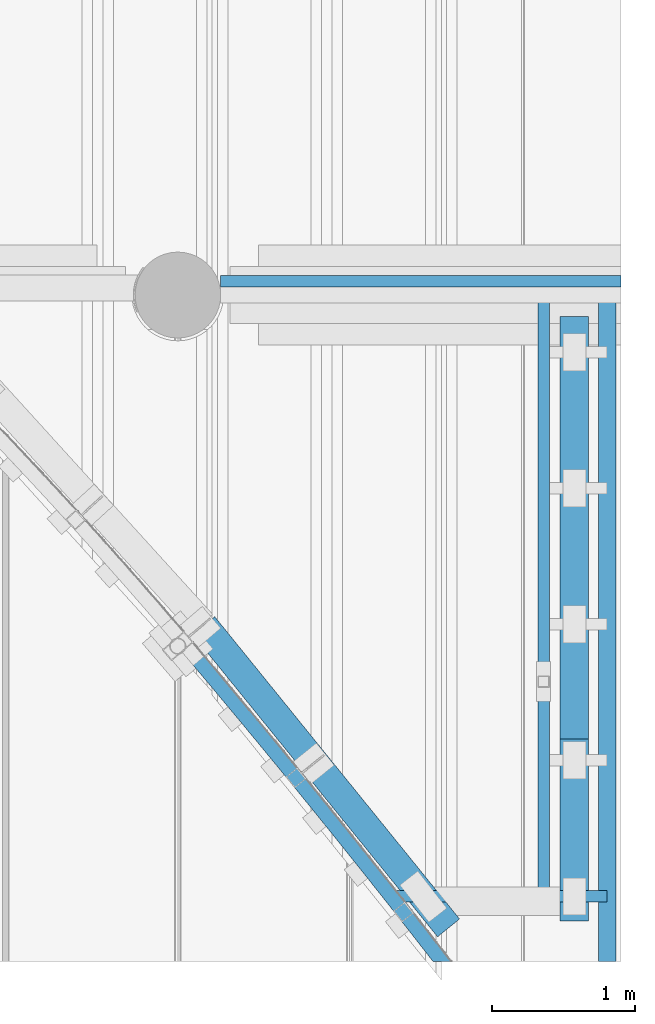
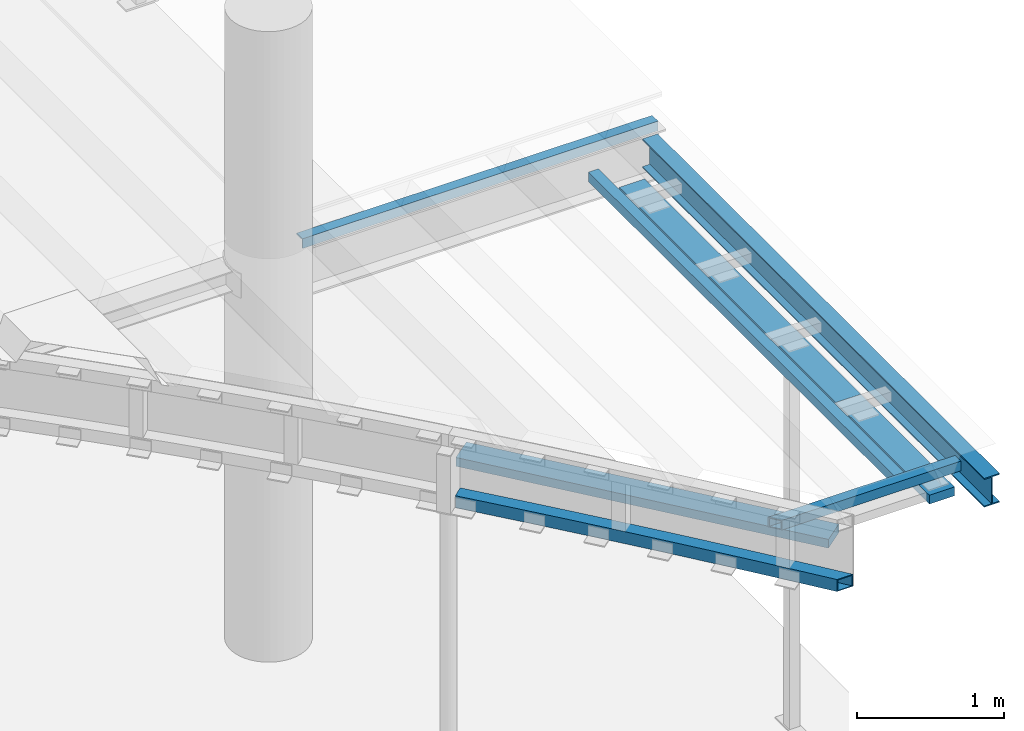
# One storey, part 22 of 98: 8 beams.
"""IFC2X3 building model written with IfcOpenShell, lengths in millimetres."""

from ifc_helpers import new_model, entity, si_unit, converted_unit, derived_unit, direction, frame, origin_with_axes, place, context, subcontext, project, spatial, faceted_brep, material, type_object, element, save


model = new_model("IFC2X3")

# Units and contexts
model_context = context("Model", 3, precision=0.01, world=frame((0.0, 4.29681676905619e-09, 0.0)), true_north=direction((4.01073788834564e-13, 1.0)))
plan_context = context("Plan", 3, precision=0.01, world=frame((0.0, 4.29681676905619e-09, 0.0)), true_north=direction((4.01073788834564e-13, 1.0)))
body_context = subcontext(model_context, "Body", "Model", "MODEL_VIEW")
ifc_project = project(units=[converted_unit("PLANEANGLEUNIT", "DEGREE", entity("IfcPositiveLengthMeasure", 0.0174532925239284), si_unit("PLANEANGLEUNIT", "RADIAN"), dimensions=[0, 0, 0, 0, 0, 0, 0]), si_unit("AREAUNIT", "SQUARE_METRE"), si_unit("LENGTHUNIT", "METRE", prefix="MILLI"), si_unit("MASSUNIT", "GRAM", prefix="KILO"), si_unit("POWERUNIT", "WATT"), si_unit("PRESSUREUNIT", "PASCAL"), si_unit("FORCEUNIT", "NEWTON", prefix="KILO"), si_unit("ELECTRICCURRENTUNIT", "AMPERE"), si_unit("THERMODYNAMICTEMPERATUREUNIT", "DEGREE_CELSIUS"), si_unit("TIMEUNIT", "SECOND"), si_unit("VOLUMEUNIT", "CUBIC_METRE"), derived_unit("LINEARVELOCITYUNIT", [(si_unit("LENGTHUNIT", "METRE"), 1), (si_unit("TIMEUNIT", "SECOND"), -1)]), derived_unit("VOLUMETRICFLOWRATEUNIT", [(si_unit("VOLUMEUNIT", "CUBIC_METRE"), 1), (si_unit("TIMEUNIT", "SECOND"), -1)]), derived_unit("THERMALTRANSMITTANCEUNIT", [(si_unit("POWERUNIT", "WATT"), 1), (si_unit("THERMODYNAMICTEMPERATUREUNIT", "KELVIN"), -1), (si_unit("AREAUNIT", "SQUARE_METRE"), -1)])], contexts=[model_context, plan_context])

# Site, building, storey
site_placement = place(None, frame((0.0, -4.29681676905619e-09, 0.0), z_axis=(0.0, 0.0, 1.0), x_axis=(1.0, 0.0, 0.0)))
site = spatial("IfcSite", under=ifc_project, at=site_placement, Name="Gardermoen", CompositionType="ELEMENT")
building_placement = place(site_placement, frame((0.0, 4.29681676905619e-09, 0.0), z_axis=(0.0, 0.0, 1.0), x_axis=(1.0, 0.0, 0.0)))
building = spatial("IfcBuilding", under=site, at=building_placement, Name="TS", CompositionType="ELEMENT")
storey_placement = place(building_placement, origin_with_axes())
storey = spatial("IfcBuildingStorey", under=building, at=storey_placement, Name="D", CompositionType="ELEMENT", Elevation=0.0)

# Beams
beam_type_1 = type_object("IfcBeamType", Name="L80*10", PredefinedType="NOTDEFINED")
beam_1_placement = place(storey_placement, frame((529299.997991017, 405594.961929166, 207060.001811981), z_axis=(0.0, 0.0, -1.0), x_axis=(1.0, 0.0, 0.0)))
element("IfcBeam", 1, at=beam_1_placement, inside=storey, type_object=beam_type_1, Name="STÅLBJELKE", ObjectType="L80*10", context=body_context, shape_type="Brep", body=[
    faceted_brep([(2795.00200898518, 40.0, -40.0), (2795.00200898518, 40.0, 40.0), (0.0, 40.0, 40.0), (0.0, 40.0, -40.0), (2795.00200898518, 30.0, 40.0), (0.0, 30.0, 40.0), (2795.00200898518, 30.0, -30.0), (0.0, 30.0, -30.0), (2795.00200898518, -40.0, -30.0), (0.0, -40.0, -30.0), (2795.00200898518, -40.0, -40.0), (0.0, -40.0, -40.0)], [[[0, 1, 2, 3]], [[1, 4, 5, 2]], [[4, 6, 7, 5]], [[6, 8, 9, 7]], [[8, 10, 11, 9]], [[10, 0, 3, 11]], [[3, 2, 5, 7, 9, 11]], [[10, 8, 6, 4, 1, 0]]], orient=[[False], [False], [False], [False], [False], [False], [False], [False]]),
])
beam_type_2 = type_object("IfcBeamType", Name="IPE240", PredefinedType="NOTDEFINED")
beam_2_placement = place(storey_placement, frame((531999.996289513, 400380.006556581, 206919.999375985), z_axis=(0.0, 0.0, -1.0), x_axis=(0.0, 1.0, 0.0)))
element("IfcBeam", 2, at=beam_2_placement, inside=storey, type_object=beam_type_2, Name="STÅLBJELKE", ObjectType="IPE240", context=body_context, shape_type="Brep", body=[
    faceted_brep([(465.670102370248, 60.0000000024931, -110.199999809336), (465.670102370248, 60.0000000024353, -120.000000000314), (5119.99189277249, 60.0000000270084, -120.000000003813), (5119.99189277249, 60.0000000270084, -110.199999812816), (465.670102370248, 3.09999990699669, -110.199999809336), (5119.99189277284, 3.09999993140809, -110.199999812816), (465.670102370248, 3.09999990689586, 110.199999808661), (5119.99189277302, 3.09999993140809, 110.199999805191), (465.670102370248, 60.0000000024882, 110.199999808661), (5119.99189277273, 60.0000000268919, 110.199999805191), (465.670102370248, 60.0000000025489, 119.999999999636), (5119.99189277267, 60.0000000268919, 119.999999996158), (465.670102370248, -59.9999999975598, 119.999999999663), (5119.99189277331, -59.9999999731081, 119.999999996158), (465.670102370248, -59.9999999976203, 110.199999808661), (5119.99189277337, -59.9999999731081, 110.199999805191), (465.670102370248, -3.09999990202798, 110.199999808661), (5119.99189277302, -3.09999987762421, 110.199999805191), (465.670102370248, -3.09999990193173, -110.199999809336), (5119.99189277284, -3.09999987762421, -110.199999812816), (465.670102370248, -59.9999999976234, -110.199999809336), (5119.99189277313, -59.9999999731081, -110.199999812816), (465.670102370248, -59.9999999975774, -120.000000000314), (5119.99189277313, -59.9999999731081, -120.000000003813)], [[[0, 1, 2, 3]], [[4, 0, 3, 5]], [[6, 4, 5, 7]], [[8, 6, 7, 9]], [[10, 8, 9, 11]], [[12, 10, 11, 13]], [[14, 12, 13, 15]], [[16, 14, 15, 17]], [[18, 16, 17, 19]], [[20, 18, 19, 21]], [[22, 20, 21, 23]], [[1, 22, 23, 2]], [[3, 2, 23, 21, 19, 17, 15, 13, 11, 9, 7, 5]], [[4, 6, 8, 10, 12, 14, 16, 18, 20, 22, 1, 0]]], orient=[[False], [False], [False], [False], [False], [False], [False], [False], [False], [False], [False], [False], [False], [False]]),
])
ifc_material_1 = material(Name="STEEL/S355")
beam_type_3 = type_object("IfcBeamType", Name="RHS80*6", PredefinedType="NOTDEFINED")
beam_3_placement = place(storey_placement, frame((530605.0, 401300.0, 206873.0), z_axis=(0.0, 1.0, 0.0), x_axis=(1.0, 0.0, 0.0)))
element("IfcBeam", 3, at=beam_3_placement, inside=storey, type_object=beam_type_3, material=ifc_material_1, Name="STÅLBJELKE", ObjectType="RHS80*6", context=body_context, shape_type="Brep", body=[
    faceted_brep([(-19.494498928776, 34.0, -34.0), (-19.494498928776, -34.0, -34.0), (1391.89946082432, -34.0, -34.0), (1391.89946082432, 34.0, -34.0), (-73.1028731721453, -34.0, 34.0), (1391.89946082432, -34.0, 34.0), (-73.1028731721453, 34.0, 34.0), (1391.89946082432, 34.0, 34.0), (-14.7643482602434, 40.0, -40.0), (-77.8330238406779, 40.0, 40.0), (1391.89946082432, 40.0, 40.0), (1391.89946082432, 40.0, -40.0), (-77.8330238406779, -40.0, 40.0), (1391.89946082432, -40.0, 40.0), (-14.7643482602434, -40.0, -40.0), (1391.89946082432, -40.0, -40.0)], [[[0, 1, 2, 3]], [[1, 4, 5, 2]], [[4, 6, 7, 5]], [[6, 0, 3, 7]], [[8, 9, 10, 11]], [[9, 12, 13, 10]], [[12, 14, 15, 13]], [[14, 8, 11, 15]], [[13, 15, 11, 10], [5, 7, 3, 2]], [[14, 12, 9, 8], [6, 4, 1, 0]]]),
])
beam_4_placement = place(storey_placement, frame((531555.0, 405500.0, 206873.0), z_axis=(1.0, 0.0, 0.0), x_axis=(0.0, -1.0, 0.0)))
element("IfcBeam", 4, at=beam_4_placement, inside=storey, type_object=beam_type_3, material=ifc_material_1, Name="STÅLBJELKE", ObjectType="RHS80*6", context=body_context, shape_type="Brep", body=[
    faceted_brep([(0.0, 34.0, -34.0), (0.0, -34.0, -34.0), (4160.0, -34.0, -34.0), (4160.0, 34.0, -34.0), (0.0, -34.0, 34.0), (4160.0, -34.0, 34.0), (0.0, 34.0, 34.0), (4160.0, 34.0, 34.0), (0.0, 40.0, -40.0), (0.0, 40.0, 40.0), (4160.0, 40.0, 40.0), (4160.0, 40.0, -40.0), (0.0, -40.0, 40.0), (4160.0, -40.0, 40.0), (0.0, -40.0, -40.0), (4160.0, -40.0, -40.0)], [[[0, 1, 2, 3]], [[1, 4, 5, 2]], [[4, 6, 7, 5]], [[6, 0, 3, 7]], [[8, 9, 10, 11]], [[9, 12, 13, 10]], [[12, 14, 15, 13]], [[14, 8, 11, 15]], [[13, 15, 11, 10], [5, 7, 3, 2]], [[14, 12, 9, 8], [6, 4, 1, 0]]]),
])
ifc_material_2 = material(Name="TIMBER/GL36c")
beam_type_4 = type_object("IfcBeamType", Name="PL73*198", PredefinedType="NOTDEFINED")
beam_5_placement = place(storey_placement, frame((531769.996252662, 401127.788777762, 206786.5), z_axis=(-0.999999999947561, 1.02410000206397e-05, 0.0), x_axis=(1.02410000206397e-05, 0.999999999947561, 0.0)))
element("IfcBeam", 5, at=beam_5_placement, inside=storey, type_object=beam_type_4, material=ifc_material_2, Name="TREBJELKE", ObjectType="PL73*198", context=body_context, shape_type="Brep", body=[
    faceted_brep([(2.3283064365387e-10, 36.5, -99.0000000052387), (-2.3283064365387e-10, 36.5, 99.0000000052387), (1272.21122241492, 36.5, 98.9999999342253), (1272.21122241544, 36.5, -99.000000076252), (-2.3283064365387e-10, -36.5, 99.0000000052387), (1272.21122241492, -36.5, 98.9999999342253), (2.3283064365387e-10, -36.5, -99.0000000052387), (1272.21122241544, -36.5, -99.000000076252)], [[[0, 1, 2, 3]], [[1, 4, 5, 2]], [[4, 6, 7, 5]], [[6, 0, 3, 7]], [[5, 7, 3, 2]], [[6, 4, 1, 0]]]),
])
beam_6_placement = place(storey_placement, frame((531769.996252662, 402399.999780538, 206786.5), z_axis=(-0.999999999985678, 5.35199998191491e-06, 0.0), x_axis=(5.35199998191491e-06, 0.999999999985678, 0.0)))
element("IfcBeam", 6, at=beam_6_placement, inside=storey, type_object=beam_type_4, material=ifc_material_2, Name="TREBJELKE", ObjectType="PL73*198", context=body_context, shape_type="Brep", body=[
    faceted_brep([(2.3283064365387e-10, 36.5, -99.0000000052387), (-2.3283064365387e-10, 36.5, 99.0000000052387), (2950.00021955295, 36.5, 98.9999999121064), (2950.00021955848, 36.5, -99.0000000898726), (-2.3283064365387e-10, -36.5, 99.0000000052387), (2950.00021955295, -36.5, 98.9999999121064), (2.3283064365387e-10, -36.5, -99.0000000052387), (2950.00021955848, -36.5, -99.0000000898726)], [[[0, 1, 2, 3]], [[1, 4, 5, 2]], [[4, 6, 7, 5]], [[6, 0, 3, 7]], [[5, 7, 3, 2]], [[6, 4, 1, 0]]]),
])
beam_7_placement = place(storey_placement, frame((530891.371800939, 401079.8921383, 206786.5), z_axis=(-0.777020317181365, -0.629475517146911, 0.0), x_axis=(-0.629475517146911, 0.777020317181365, 0.0)))
element("IfcBeam", 7, at=beam_7_placement, inside=storey, type_object=beam_type_4, material=ifc_material_2, Name="TREBJELKE", ObjectType="PL73*198", context=body_context, shape_type="Brep", body=[
    faceted_brep([(2.3283064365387e-10, 36.5, -99.0000000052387), (-2.3283064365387e-10, 36.5, 99.0000000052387), (2716.5928605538, 36.5, 99.0000001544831), (2716.5928605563, 36.5, -98.9999998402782), (-2.3283064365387e-10, -36.5, 99.0000000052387), (2716.5928605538, -36.5, 99.0000001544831), (2.3283064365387e-10, -36.5, -99.0000000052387), (2716.5928605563, -36.5, -98.9999998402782)], [[[0, 1, 2, 3]], [[1, 4, 5, 2]], [[4, 6, 7, 5]], [[6, 0, 3, 7]], [[5, 7, 3, 2]], [[6, 4, 1, 0]]]),
])
beam_type_5 = type_object("IfcBeamType", Name="RHS100*6.3", PredefinedType="NOTDEFINED")
beam_8_placement = place(storey_placement, frame((529157.519512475, 402932.753920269, 206555.0), z_axis=(0.0, 0.0, 1.0), x_axis=(0.616783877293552, -0.787132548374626, 0.0)))
element("IfcBeam", 8, at=beam_8_placement, inside=storey, type_object=beam_type_5, Name="STÅLBJELKE", ObjectType="RHS100*6.3", context=body_context, shape_type="Brep", body=[
    faceted_brep([(1.78141594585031, -49.9682554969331, -50.0), (-1.78141594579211, 49.9682554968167, -50.0), (-96.4603273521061, 46.525295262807, -50.0), (-92.7550461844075, -53.4060356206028, -50.0), (-141.9494070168, 44.8061724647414, -50.0), (-137.529235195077, -55.0981412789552, -50.0), (96.3226823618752, -46.6652343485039, -50.0), (92.9023069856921, 53.2762536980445, -50.0), (190.868560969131, -43.4969788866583, -50.0), (187.590649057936, 56.4492831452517, -50.0), (285.418859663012, -40.4634955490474, -50.0), (282.283417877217, 59.4873373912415, -50.0), (379.97338633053, -37.5647904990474, -50.0), (376.980421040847, 62.3904102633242, -50.0), (474.531948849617, -34.8008696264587, -50.0), (471.681466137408, 65.1584958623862, -50.0), (569.094355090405, -32.1717385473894, -50.0), (566.386360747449, 67.7915885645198, -50.0), (663.660412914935, -29.6774026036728, -50.0), (661.094912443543, 70.2896830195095, -50.0), (758.229930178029, -27.3178668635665, -50.0), (755.806928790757, 72.6527741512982, -50.0), (852.802714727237, -25.0931361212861, -50.0), (850.522217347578, 74.8808571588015, -50.0), (947.37857440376, -23.0032148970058, -50.0), (945.24058566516, 76.9739275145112, -50.0), (1041.9573170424, -21.0481074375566, -50.0), (1039.96184128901, 78.9319809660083, -50.0), (1136.53875047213, -19.2278177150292, -50.0), (1134.68579175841, 80.75501353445, -50.0), (1231.12268251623, -17.5423494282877, -50.0), (1229.41224460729, 82.4430215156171, -50.0), (1325.70892099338, -15.9917060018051, -50.0), (1324.14100736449, 83.9960014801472, -50.0), (1420.29727371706, -14.5758905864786, -50.0), (1418.87188755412, 85.4139502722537, -50.0), (1514.887548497, -13.2949060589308, -50.0), (1513.60469269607, 86.6968650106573, -50.0), (1609.47955313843, -12.1487550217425, -50.0), (1608.3392303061, 87.8447430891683, -50.0), (1704.07309544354, -11.1374398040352, -50.0), (1703.07530789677, 88.8575821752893, -50.0), (1798.66798321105, -10.2609624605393, -50.0), (1797.81273297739, 89.7353802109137, -50.0), (1893.26402423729, -9.51932477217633, -50.0), (1892.55131305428, 90.4781354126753, -50.0), (1987.86102631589, -8.91252824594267, -50.0), (1987.29085563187, 91.0858462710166, -50.0), (2082.45879723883, -8.44057411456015, -50.0), (2082.03116821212, 91.5585115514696, -50.0), (2177.05714479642, -8.10346333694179, -50.0), (2176.77205829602, 91.8961302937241, -50.0), (2271.65587677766, -7.90119659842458, -50.0), (2271.51333338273, 92.098701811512, -50.0), (2366.25480097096, -7.83377430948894, -50.0), (2366.25480097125, 92.1662256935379, -50.0), (2460.85372516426, -7.90119660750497, -50.0), (2460.99626855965, 92.0987018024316, -50.0), (2555.4524571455, -8.10346335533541, -50.0), (2555.73754364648, 91.8961302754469, -50.0), (2644.89454651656, -8.42219929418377, -50.0), (2650.07917790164, -1.80563186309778, -50.0), (2650.47843373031, 91.5585115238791, -50.0), (2722.95442276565, 91.1969243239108, -50.0), (2722.95442276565, 91.1969243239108, 50.0), (2650.47843373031, 91.5585115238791, 50.0), (2555.73754364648, 91.8961302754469, 50.0), (2460.99626855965, 92.0987018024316, 50.0), (2366.25480097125, 92.1662256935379, 50.0), (2271.51333338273, 92.098701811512, 50.0), (2176.77205829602, 91.8961302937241, 50.0), (2082.03116821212, 91.5585115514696, 50.0), (1987.29085563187, 91.0858462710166, 50.0), (1892.55131305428, 90.4781354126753, 50.0), (1797.81273297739, 89.7353802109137, 50.0), (1703.07530789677, 88.8575821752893, 50.0), (1608.3392303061, 87.8447430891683, 50.0), (1513.60469269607, 86.6968650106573, 50.0), (1418.87188755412, 85.4139502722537, 50.0), (1324.14100736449, 83.9960014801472, 50.0), (1229.41224460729, 82.4430215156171, 50.0), (1134.68579175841, 80.75501353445, 50.0), (1039.96184128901, 78.9319809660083, 50.0), (945.24058566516, 76.9739275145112, 50.0), (850.522217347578, 74.8808571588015, 50.0), (755.806928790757, 72.6527741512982, 50.0), (661.094912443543, 70.2896830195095, 50.0), (566.386360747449, 67.7915885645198, 50.0), (471.681466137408, 65.1584958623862, 50.0), (376.980421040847, 62.3904102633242, 50.0), (282.283417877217, 59.4873373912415, 50.0), (187.590649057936, 56.4492831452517, 50.0), (92.9023069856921, 53.2762536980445, 50.0), (-1.78141594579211, 49.9682554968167, 50.0), (-96.4603273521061, 46.525295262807, 50.0), (-141.9494070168, 44.8061724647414, 50.0), (1.78141594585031, -49.9682554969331, 50.0), (-92.7550461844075, -53.4060356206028, 50.0), (-137.529235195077, -55.0981412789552, 50.0), (96.3226823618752, -46.6652343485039, 50.0), (190.868560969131, -43.4969788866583, 50.0), (285.418859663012, -40.4634955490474, 50.0), (379.97338633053, -37.5647904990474, 50.0), (474.531948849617, -34.8008696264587, 50.0), (569.094355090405, -32.1717385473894, 50.0), (663.660412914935, -29.6774026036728, 50.0), (758.229930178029, -27.3178668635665, 50.0), (852.802714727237, -25.0931361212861, 50.0), (947.37857440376, -23.0032148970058, 50.0), (1041.9573170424, -21.0481074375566, 50.0), (1136.53875047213, -19.2278177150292, 50.0), (1231.12268251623, -17.5423494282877, 50.0), (1325.70892099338, -15.9917060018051, 50.0), (1420.29727371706, -14.5758905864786, 50.0), (1514.887548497, -13.2949060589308, 50.0), (1609.47955313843, -12.1487550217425, 50.0), (1704.07309544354, -11.1374398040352, 50.0), (1798.66798321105, -10.2609624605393, 50.0), (1893.26402423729, -9.51932477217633, 50.0), (1987.86102631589, -8.91252824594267, 50.0), (2082.45879723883, -8.44057411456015, 50.0), (2177.05714479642, -8.10346333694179, 50.0), (2271.65587677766, -7.90119659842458, 50.0), (2366.25480097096, -7.83377430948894, 50.0), (2460.85372516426, -7.90119660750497, 50.0), (2555.4524571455, -8.10346335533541, 50.0), (2650.07917790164, -1.80563186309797, 50.0), (2644.89454651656, -8.42219929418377, 50.0), (-137.807706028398, -48.804169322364, -43.6999998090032), (-141.670936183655, 38.5122005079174, -43.6999998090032), (-96.226894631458, 40.2296212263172, -43.6999998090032), (-92.9884789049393, -47.1103615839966, -43.6999998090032), (-1.55695752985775, 43.6722551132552, -43.6999998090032), (1.55695752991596, -43.6722551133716, -43.6999998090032), (93.1177906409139, 46.979939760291, -43.6999998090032), (96.1071987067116, -40.368920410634, -43.6999998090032), (187.797157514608, 50.1526684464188, -43.6999998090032), (190.66205251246, -37.2003641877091, -43.6999998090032), (282.480950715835, 53.1904347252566, -43.6999998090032), (285.22132682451, -34.1665928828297, -43.6999998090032), (377.168977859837, 56.0932324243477, -43.6999998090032), (379.784829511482, -31.2676126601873, -43.6999998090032), (471.861046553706, 58.8610556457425, -43.6999998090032), (474.352368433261, -28.503429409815, -43.6999998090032), (566.556964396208, 61.4938987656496, -43.6999998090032), (568.923751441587, -25.8740487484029, -43.6999998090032), (661.256538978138, 63.9917564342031, -43.6999998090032), (663.49878638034, -23.3794760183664, -43.6999998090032), (755.959577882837, 66.3546235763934, -43.6999998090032), (758.077281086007, -21.0197162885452, -43.6999998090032), (850.665888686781, 68.5824953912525, -43.6999998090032), (852.659043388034, -18.7947743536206, -43.6999998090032), (945.375278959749, 70.6753673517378, -43.6999998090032), (947.243881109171, -16.7046547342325, -43.6999998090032), (1040.08755626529, 72.633235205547, -43.6999998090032), (1041.83160206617, -14.7493616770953, -43.6999998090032), (1134.80252816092, 74.4560949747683, -43.6999998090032), (1136.42201406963, -12.9288991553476, -43.6999998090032), (1229.52000219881, 76.1439429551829, -43.6999998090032), (1231.0149249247, -11.2432708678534, -43.6999998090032), (1324.23978592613, 77.6967757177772, -43.6999998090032), (1325.61014243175, -9.69248023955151, -43.6999998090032), (1418.96168688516, 79.1145901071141, -43.6999998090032), (1420.20747438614, -8.27653042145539, -43.6999998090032), (1513.68551261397, 80.3973832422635, -43.6999998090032), (1514.80672857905, -6.9954242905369, -43.6999998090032), (1608.41107064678, 81.5451525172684, -43.6999998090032), (1609.40771279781, -5.84916444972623, -43.6999998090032), (1703.13816851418, 82.5578955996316, -43.6999998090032), (1704.01023482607, -4.83775322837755, -43.6999998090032), (1797.86661374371, 83.4356104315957, -43.6999998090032), (1798.61410244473, -3.96119268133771, -43.6999998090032), (1892.5962138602, 84.1782952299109, -43.6999998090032), (1893.21912343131, -3.21948458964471, -43.6999998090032), (1987.32677638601, 84.7859484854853, -43.6999998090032), (1987.82510556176, -2.61263046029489, -43.6999998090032), (2082.05810884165, 85.258568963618, -43.6999998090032), (2082.43185660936, -2.14063152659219, -43.6999998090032), (2176.79001874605, 85.5961557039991, -43.6999998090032), (2177.03918434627, -1.80348874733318, -43.6999998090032), (2271.52231361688, 85.7987080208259, -43.6999998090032), (2271.64689654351, -1.60120280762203, -43.6999998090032), (2366.25480097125, 85.8662255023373, -43.6999998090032), (2366.25480097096, -1.53377411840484, -43.6999998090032), (2460.98728832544, 85.7987080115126, -43.6999998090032), (2460.86270539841, -1.60120281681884, -43.6999998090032), (2555.71958319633, 85.5961556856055, -43.6999998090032), (2555.47041759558, -1.8034887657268, -43.6999998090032), (2650.07917790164, -1.80563186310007, -43.6999998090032), (2649.81740472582, -2.13970380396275, -43.6999998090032), (2650.45149310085, 85.2585689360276, -43.6999998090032), (2718.03701184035, 84.9213805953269, -43.6999998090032), (-141.670936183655, 38.5122005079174, 43.6999998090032), (-96.226894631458, 40.2296212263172, 43.6999998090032), (-1.55695752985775, 43.6722551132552, 43.6999998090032), (93.1177906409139, 46.979939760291, 43.6999998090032), (187.797157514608, 50.1526684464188, 43.6999998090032), (282.480950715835, 53.1904347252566, 43.6999998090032), (377.168977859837, 56.0932324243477, 43.6999998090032), (471.861046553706, 58.8610556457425, 43.6999998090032), (566.556964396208, 61.4938987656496, 43.6999998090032), (661.256538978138, 63.9917564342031, 43.6999998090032), (755.959577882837, 66.3546235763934, 43.6999998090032), (850.665888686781, 68.5824953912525, 43.6999998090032), (945.375278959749, 70.6753673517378, 43.6999998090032), (1040.08755626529, 72.633235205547, 43.6999998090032), (1134.80252816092, 74.4560949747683, 43.6999998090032), (1229.52000219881, 76.1439429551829, 43.6999998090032), (1324.23978592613, 77.6967757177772, 43.6999998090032), (1418.96168688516, 79.1145901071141, 43.6999998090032), (1513.68551261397, 80.3973832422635, 43.6999998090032), (1608.41107064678, 81.5451525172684, 43.6999998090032), (1703.13816851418, 82.5578955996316, 43.6999998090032), (1797.86661374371, 83.4356104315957, 43.6999998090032), (1892.5962138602, 84.1782952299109, 43.6999998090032), (1987.32677638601, 84.7859484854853, 43.6999998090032), (2082.05810884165, 85.258568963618, 43.6999998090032), (2176.79001874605, 85.5961557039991, 43.6999998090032), (2271.52231361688, 85.7987080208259, 43.6999998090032), (2366.25480097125, 85.8662255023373, 43.6999998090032), (2460.98728832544, 85.7987080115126, 43.6999998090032), (2555.71958319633, 85.5961556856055, 43.6999998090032), (2650.45149310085, 85.2585689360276, 43.6999998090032), (2718.03701184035, 84.9213805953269, 43.6999998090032), (-137.807706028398, -48.804169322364, 43.6999998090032), (-92.9884789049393, -47.1103615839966, 43.6999998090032), (1.55695752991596, -43.6722551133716, 43.6999998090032), (96.1071987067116, -40.368920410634, 43.6999998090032), (190.66205251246, -37.2003641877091, 43.6999998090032), (285.22132682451, -34.1665928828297, 43.6999998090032), (379.784829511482, -31.2676126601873, 43.6999998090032), (474.352368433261, -28.503429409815, 43.6999998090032), (568.923751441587, -25.8740487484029, 43.6999998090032), (663.49878638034, -23.3794760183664, 43.6999998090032), (758.077281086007, -21.0197162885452, 43.6999998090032), (852.659043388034, -18.7947743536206, 43.6999998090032), (947.243881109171, -16.7046547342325, 43.6999998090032), (1041.83160206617, -14.7493616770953, 43.6999998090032), (1136.42201406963, -12.9288991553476, 43.6999998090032), (1231.0149249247, -11.2432708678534, 43.6999998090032), (1325.61014243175, -9.69248023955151, 43.6999998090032), (1420.20747438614, -8.27653042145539, 43.6999998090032), (1514.80672857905, -6.9954242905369, 43.6999998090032), (1609.40771279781, -5.84916444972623, 43.6999998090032), (1704.01023482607, -4.83775322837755, 43.6999998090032), (1798.61410244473, -3.96119268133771, 43.6999998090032), (1893.21912343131, -3.21948458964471, 43.6999998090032), (1987.82510556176, -2.61263046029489, 43.6999998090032), (2082.43185660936, -2.14063152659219, 43.6999998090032), (2177.03918434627, -1.80348874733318, 43.6999998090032), (2271.64689654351, -1.60120280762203, 43.6999998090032), (2366.25480097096, -1.53377411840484, 43.6999998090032), (2460.86270539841, -1.60120281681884, 43.6999998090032), (2555.47041759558, -1.8034887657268, 43.6999998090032), (2649.81740472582, -2.13970380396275, 43.6999998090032), (2650.07917790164, -1.80563186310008, 43.6999998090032)], [[[0, 1, 2, 3]], [[4, 5, 3, 2]], [[6, 7, 1, 0]], [[8, 9, 7, 6]], [[10, 11, 9, 8]], [[12, 13, 11, 10]], [[14, 15, 13, 12]], [[16, 17, 15, 14]], [[18, 19, 17, 16]], [[20, 21, 19, 18]], [[22, 23, 21, 20]], [[24, 25, 23, 22]], [[26, 27, 25, 24]], [[28, 29, 27, 26]], [[30, 31, 29, 28]], [[32, 33, 31, 30]], [[34, 35, 33, 32]], [[36, 37, 35, 34]], [[38, 39, 37, 36]], [[40, 41, 39, 38]], [[42, 43, 41, 40]], [[44, 45, 43, 42]], [[46, 47, 45, 44]], [[48, 49, 47, 46]], [[50, 51, 49, 48]], [[52, 53, 51, 50]], [[54, 55, 53, 52]], [[56, 57, 55, 54]], [[58, 59, 57, 56]], [[60, 61, 62, 59, 58]], [[61, 63, 62]], [[63, 64, 65, 62]], [[62, 65, 66, 59]], [[59, 66, 67, 57]], [[57, 67, 68, 55]], [[55, 68, 69, 53]], [[53, 69, 70, 51]], [[51, 70, 71, 49]], [[49, 71, 72, 47]], [[47, 72, 73, 45]], [[45, 73, 74, 43]], [[43, 74, 75, 41]], [[41, 75, 76, 39]], [[39, 76, 77, 37]], [[37, 77, 78, 35]], [[35, 78, 79, 33]], [[33, 79, 80, 31]], [[31, 80, 81, 29]], [[29, 81, 82, 27]], [[27, 82, 83, 25]], [[25, 83, 84, 23]], [[23, 84, 85, 21]], [[21, 85, 86, 19]], [[19, 86, 87, 17]], [[17, 87, 88, 15]], [[15, 88, 89, 13]], [[13, 89, 90, 11]], [[11, 90, 91, 9]], [[9, 91, 92, 7]], [[7, 92, 93, 1]], [[1, 93, 94, 2]], [[95, 4, 2, 94]], [[93, 96, 97, 94]], [[98, 95, 94, 97]], [[92, 99, 96, 93]], [[91, 100, 99, 92]], [[90, 101, 100, 91]], [[89, 102, 101, 90]], [[88, 103, 102, 89]], [[87, 104, 103, 88]], [[86, 105, 104, 87]], [[85, 106, 105, 86]], [[84, 107, 106, 85]], [[83, 108, 107, 84]], [[82, 109, 108, 83]], [[81, 110, 109, 82]], [[80, 111, 110, 81]], [[79, 112, 111, 80]], [[78, 113, 112, 79]], [[77, 114, 113, 78]], [[76, 115, 114, 77]], [[75, 116, 115, 76]], [[74, 117, 116, 75]], [[73, 118, 117, 74]], [[72, 119, 118, 73]], [[71, 120, 119, 72]], [[70, 121, 120, 71]], [[69, 122, 121, 70]], [[68, 123, 122, 69]], [[67, 124, 123, 68]], [[66, 125, 124, 67]], [[126, 127, 125, 66, 65]], [[64, 126, 65]], [[127, 60, 58, 125]], [[125, 58, 56, 124]], [[124, 56, 54, 123]], [[123, 54, 52, 122]], [[122, 52, 50, 121]], [[121, 50, 48, 120]], [[120, 48, 46, 119]], [[119, 46, 44, 118]], [[118, 44, 42, 117]], [[117, 42, 40, 116]], [[116, 40, 38, 115]], [[115, 38, 36, 114]], [[114, 36, 34, 113]], [[113, 34, 32, 112]], [[112, 32, 30, 111]], [[111, 30, 28, 110]], [[110, 28, 26, 109]], [[109, 26, 24, 108]], [[108, 24, 22, 107]], [[107, 22, 20, 106]], [[106, 20, 18, 105]], [[105, 18, 16, 104]], [[104, 16, 14, 103]], [[103, 14, 12, 102]], [[102, 12, 10, 101]], [[101, 10, 8, 100]], [[100, 8, 6, 99]], [[99, 6, 0, 96]], [[96, 0, 3, 97]], [[5, 98, 97, 3]], [[128, 129, 130, 131]], [[132, 133, 131, 130]], [[134, 135, 133, 132]], [[136, 137, 135, 134]], [[138, 139, 137, 136]], [[140, 141, 139, 138]], [[142, 143, 141, 140]], [[144, 145, 143, 142]], [[146, 147, 145, 144]], [[148, 149, 147, 146]], [[150, 151, 149, 148]], [[152, 153, 151, 150]], [[154, 155, 153, 152]], [[156, 157, 155, 154]], [[158, 159, 157, 156]], [[160, 161, 159, 158]], [[162, 163, 161, 160]], [[164, 165, 163, 162]], [[166, 167, 165, 164]], [[168, 169, 167, 166]], [[170, 171, 169, 168]], [[172, 173, 171, 170]], [[174, 175, 173, 172]], [[176, 177, 175, 174]], [[178, 179, 177, 176]], [[180, 181, 179, 178]], [[182, 183, 181, 180]], [[184, 185, 183, 182]], [[186, 187, 185, 184]], [[188, 189, 187, 186, 190]], [[191, 188, 190]], [[129, 192, 193, 130]], [[194, 132, 130, 193]], [[195, 134, 132, 194]], [[196, 136, 134, 195]], [[197, 138, 136, 196]], [[198, 140, 138, 197]], [[199, 142, 140, 198]], [[200, 144, 142, 199]], [[201, 146, 144, 200]], [[202, 148, 146, 201]], [[203, 150, 148, 202]], [[204, 152, 150, 203]], [[205, 154, 152, 204]], [[206, 156, 154, 205]], [[207, 158, 156, 206]], [[208, 160, 158, 207]], [[209, 162, 160, 208]], [[210, 164, 162, 209]], [[211, 166, 164, 210]], [[212, 168, 166, 211]], [[213, 170, 168, 212]], [[214, 172, 170, 213]], [[215, 174, 172, 214]], [[216, 176, 174, 215]], [[217, 178, 176, 216]], [[218, 180, 178, 217]], [[219, 182, 180, 218]], [[220, 184, 182, 219]], [[221, 186, 184, 220]], [[222, 190, 186, 221]], [[223, 191, 190, 222]], [[192, 224, 225, 193]], [[226, 194, 193, 225]], [[227, 195, 194, 226]], [[228, 196, 195, 227]], [[229, 197, 196, 228]], [[230, 198, 197, 229]], [[231, 199, 198, 230]], [[232, 200, 199, 231]], [[233, 201, 200, 232]], [[234, 202, 201, 233]], [[235, 203, 202, 234]], [[236, 204, 203, 235]], [[237, 205, 204, 236]], [[238, 206, 205, 237]], [[239, 207, 206, 238]], [[240, 208, 207, 239]], [[241, 209, 208, 240]], [[242, 210, 209, 241]], [[243, 211, 210, 242]], [[244, 212, 211, 243]], [[245, 213, 212, 244]], [[246, 214, 213, 245]], [[247, 215, 214, 246]], [[248, 216, 215, 247]], [[249, 217, 216, 248]], [[250, 218, 217, 249]], [[251, 219, 218, 250]], [[252, 220, 219, 251]], [[253, 221, 220, 252]], [[254, 255, 222, 221, 253]], [[255, 223, 222]], [[95, 98, 5, 4], [128, 224, 192, 129]], [[224, 128, 131, 225]], [[133, 226, 225, 131]], [[135, 227, 226, 133]], [[137, 228, 227, 135]], [[139, 229, 228, 137]], [[141, 230, 229, 139]], [[143, 231, 230, 141]], [[145, 232, 231, 143]], [[147, 233, 232, 145]], [[149, 234, 233, 147]], [[151, 235, 234, 149]], [[153, 236, 235, 151]], [[155, 237, 236, 153]], [[157, 238, 237, 155]], [[159, 239, 238, 157]], [[161, 240, 239, 159]], [[163, 241, 240, 161]], [[165, 242, 241, 163]], [[167, 243, 242, 165]], [[169, 244, 243, 167]], [[171, 245, 244, 169]], [[173, 246, 245, 171]], [[175, 247, 246, 173]], [[177, 248, 247, 175]], [[179, 249, 248, 177]], [[181, 250, 249, 179]], [[183, 251, 250, 181]], [[185, 252, 251, 183]], [[187, 253, 252, 185]], [[189, 254, 253, 187]], [[127, 126, 64, 63, 61, 60], [191, 223, 255, 254, 189, 188]]], orient=[[False], [False], [False], [False], [False], [False], [False], [False], [False], [False], [False], [False], [False], [False], [False], [False], [False], [False], [False], [False], [False], [False], [False], [False], [False], [False], [False], [False], [False], [False], [False], [False], [False], [False], [False], [False], [False], [False], [False], [False], [False], [False], [False], [False], [False], [False], [False], [False], [False], [False], [False], [False], [False], [False], [False], [False], [False], [False], [False], [False], [False], [False], [False], [False], [False], [False], [False], [False], [False], [False], [False], [False], [False], [False], [False], [False], [False], [False], [False], [False], [False], [False], [False], [False], [False], [False], [False], [False], [False], [False], [False], [False], [False], [False], [False], [False], [False], [False], [False], [False], [False], [False], [False], [False], [False], [False], [False], [False], [False], [False], [False], [False], [False], [False], [False], [False], [False], [False], [False], [False], [False], [False], [False], [False], [False], [False], [False], [False], [False], [False], [False], [False], [False], [False], [False], [False], [False], [False], [False], [False], [False], [False], [False], [False], [False], [False], [False], [False], [False], [False], [False], [False], [False], [False], [False], [False], [False], [False], [False], [False], [False], [False], [False], [False], [False], [False], [False], [False], [False], [False], [False], [False], [False], [False], [False], [False], [False], [False], [False], [False], [False], [False], [False], [False], [False], [False], [False], [False], [False], [False], [False], [False], [False], [False], [False], [False], [False], [False], [False], [False], [False], [False], [False], [False], [False], [False], [False], [False], [False], [False], [False], [False], [False], [False], [False], [False], [False, False], [False], [False], [False], [False], [False], [False], [False], [False], [False], [False], [False], [False], [False], [False], [False], [False], [False], [False], [False], [False], [False], [False], [False], [False], [False], [False], [False], [False], [False], [False], [False, False]]),
])

save(model, "model.ifc")
